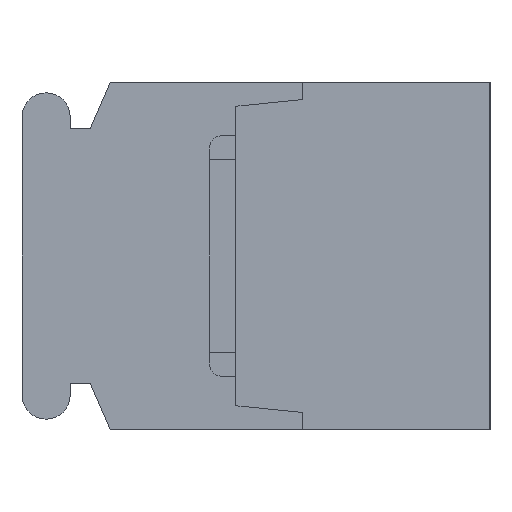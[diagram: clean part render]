
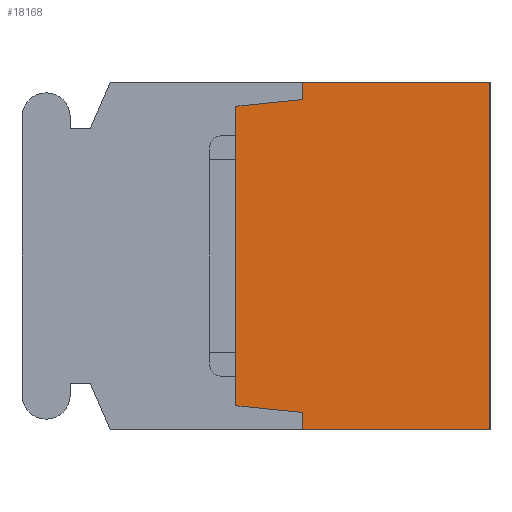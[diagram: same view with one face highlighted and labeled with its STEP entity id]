
A CAD part, left-side view. The second image highlights one B-rep face of the part: STEP entity #18168.
In plain terms, the highlighted planar face has unit normal (-1, 0, 0).
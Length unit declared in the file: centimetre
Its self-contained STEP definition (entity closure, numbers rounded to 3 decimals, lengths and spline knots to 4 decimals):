
#1222=VECTOR('',#20043,1.);
#1259=VECTOR('',#20081,1.);
#1325=VECTOR('',#20163,1.);
#2262=VECTOR('',#22568,1.);
#2263=VECTOR('',#22569,1.);
#2264=VECTOR('',#22570,1.);
#2265=VECTOR('',#22571,1.);
#2266=VECTOR('',#22572,1.);
#3216=LINE('',#25088,#1222);
#3253=LINE('',#25161,#1259);
#3319=LINE('',#25296,#1325);
#4256=LINE('',#28448,#2262);
#4257=LINE('',#28450,#2263);
#4258=LINE('',#28452,#2264);
#4259=LINE('',#28454,#2265);
#4260=LINE('',#28456,#2266);
#5224=VERTEX_POINT('',#25085);
#5225=VERTEX_POINT('',#25087);
#5261=VERTEX_POINT('',#25162);
#5317=VERTEX_POINT('',#25295);
#6224=VERTEX_POINT('',#28449);
#6225=VERTEX_POINT('',#28451);
#6226=VERTEX_POINT('',#28453);
#6227=VERTEX_POINT('',#28455);
#7632=EDGE_CURVE('',#5225,#5224,#3216,.T.);
#7669=EDGE_CURVE('',#5224,#5261,#3253,.T.);
#7737=EDGE_CURVE('',#5317,#5225,#3319,.T.);
#9128=EDGE_CURVE('',#6224,#5317,#4256,.T.);
#9129=EDGE_CURVE('',#6225,#6224,#4257,.T.);
#9130=EDGE_CURVE('',#6226,#6225,#4258,.T.);
#9131=EDGE_CURVE('',#6227,#6226,#4259,.T.);
#9132=EDGE_CURVE('',#5261,#6227,#4260,.T.);
#14050=ORIENTED_EDGE('',*,*,#7632,.F.);
#14051=ORIENTED_EDGE('',*,*,#7737,.F.);
#14052=ORIENTED_EDGE('',*,*,#9128,.F.);
#14053=ORIENTED_EDGE('',*,*,#9129,.F.);
#14054=ORIENTED_EDGE('',*,*,#9130,.F.);
#14055=ORIENTED_EDGE('',*,*,#9131,.F.);
#14056=ORIENTED_EDGE('',*,*,#9132,.F.);
#14057=ORIENTED_EDGE('',*,*,#7669,.F.);
#15998=EDGE_LOOP('',(#14050,#14051,#14052,#14053,#14054,#14055,#14056,#14057));
#17138=FACE_BOUND('',#15998,.T.);
#18168=ADVANCED_FACE('',(#17138),#18983,.F.);
#18983=PLANE('',#31162);
#20043=DIRECTION('',(0.,0.,-1.));
#20081=DIRECTION('',(0.,1.,0.));
#20163=DIRECTION('',(0.,-1.,0.));
#22567=DIRECTION('',(1.,0.,0.));
#22568=DIRECTION('',(0.,0.,1.));
#22569=DIRECTION('',(0.,-0.995,0.1));
#22570=DIRECTION('',(0.,0.,1.));
#22571=DIRECTION('',(0.,0.995,0.1));
#22572=DIRECTION('',(0.,0.,1.));
#25085=CARTESIAN_POINT('',(-1.84,0.,-0.65));
#25087=CARTESIAN_POINT('',(-1.84,0.,0.65));
#25088=CARTESIAN_POINT('',(-1.84,0.,0.65));
#25161=CARTESIAN_POINT('',(-1.84,0.,-0.65));
#25162=CARTESIAN_POINT('',(-1.84,0.7,-0.65));
#25295=CARTESIAN_POINT('',(-1.84,0.7,0.65));
#25296=CARTESIAN_POINT('',(-1.84,0.7,0.65));
#28447=CARTESIAN_POINT('',(-1.84,0.4626,0.));
#28448=CARTESIAN_POINT('',(-1.84,0.7,0.585));
#28449=CARTESIAN_POINT('',(-1.84,0.7,0.585));
#28450=CARTESIAN_POINT('',(-1.84,0.95,0.56));
#28451=CARTESIAN_POINT('',(-1.84,0.95,0.56));
#28452=CARTESIAN_POINT('',(-1.84,0.95,-0.56));
#28453=CARTESIAN_POINT('',(-1.84,0.95,-0.56));
#28454=CARTESIAN_POINT('',(-1.84,0.7,-0.585));
#28455=CARTESIAN_POINT('',(-1.84,0.7,-0.585));
#28456=CARTESIAN_POINT('',(-1.84,0.7,-0.65));
#31162=AXIS2_PLACEMENT_3D('',#28447,#22567,$);
